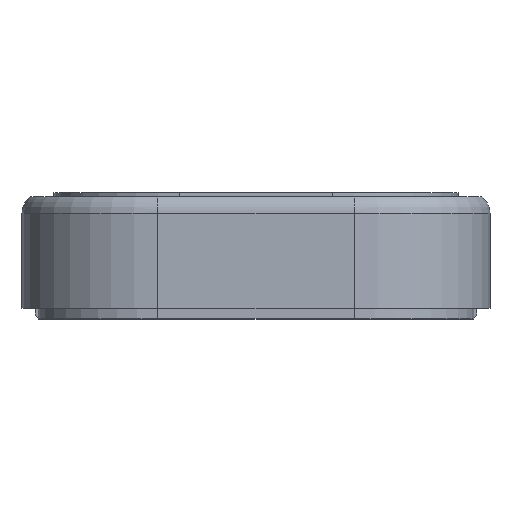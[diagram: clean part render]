
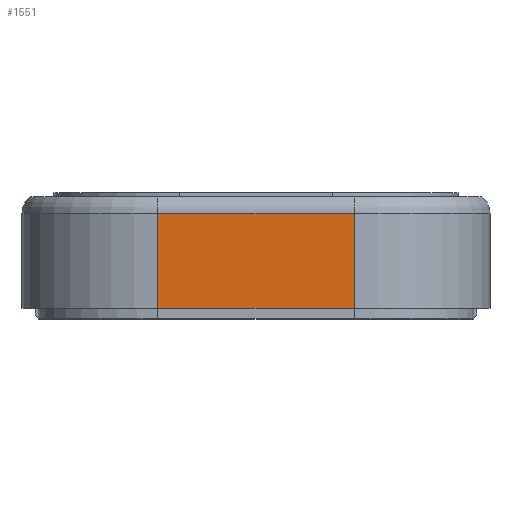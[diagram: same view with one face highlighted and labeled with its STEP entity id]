
A CAD part, front view. The second image highlights one B-rep face of the part: STEP entity #1551.
In plain terms, the highlighted planar face has unit normal (0, -1, 0).
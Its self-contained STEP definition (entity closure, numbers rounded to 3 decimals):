
#44 = CYLINDRICAL_SURFACE('',#45,24.8);
#45 = AXIS2_PLACEMENT_3D('',#46,#47,#48);
#46 = CARTESIAN_POINT('',(-18.,-42.,-13.2));
#47 = DIRECTION('',(0.,0.,1.));
#48 = DIRECTION('',(-1.,-0.,0.));
#72 = PLANE('',#73);
#73 = AXIS2_PLACEMENT_3D('',#74,#75,#76);
#74 = CARTESIAN_POINT('',(-100.,-110.,-9.));
#75 = DIRECTION('',(0.,0.,1.));
#76 = DIRECTION('',(1.,0.,-0.));
#373 = VERTEX_POINT('',#374);
#374 = CARTESIAN_POINT('',(-18.,-66.8,-9.));
#396 = EDGE_CURVE('',#373,#397,#399,.T.);
#397 = VERTEX_POINT('',#398);
#398 = CARTESIAN_POINT('',(-18.,-66.8,8.4));
#399 = SURFACE_CURVE('',#400,(#404,#411),.PCURVE_S1.);
#400 = LINE('',#401,#402);
#401 = CARTESIAN_POINT('',(-18.,-66.8,-13.2));
#402 = VECTOR('',#403,1.);
#403 = DIRECTION('',(0.,0.,1.));
#404 = PCURVE('',#44,#405);
#405 = DEFINITIONAL_REPRESENTATION('',(#406),#410);
#406 = LINE('',#407,#408);
#407 = CARTESIAN_POINT('',(1.571,0.));
#408 = VECTOR('',#409,1.);
#409 = DIRECTION('',(0.,1.));
#410 = ( GEOMETRIC_REPRESENTATION_CONTEXT(2) 
PARAMETRIC_REPRESENTATION_CONTEXT() REPRESENTATION_CONTEXT('2D SPACE',''
  ) );
#411 = PCURVE('',#412,#417);
#412 = PLANE('',#413);
#413 = AXIS2_PLACEMENT_3D('',#414,#415,#416);
#414 = CARTESIAN_POINT('',(-42.8,-66.8,-13.2));
#415 = DIRECTION('',(0.,1.,0.));
#416 = DIRECTION('',(0.,-0.,1.));
#417 = DEFINITIONAL_REPRESENTATION('',(#418),#422);
#418 = LINE('',#419,#420);
#419 = CARTESIAN_POINT('',(0.,24.8));
#420 = VECTOR('',#421,1.);
#421 = DIRECTION('',(1.,0.));
#422 = ( GEOMETRIC_REPRESENTATION_CONTEXT(2) 
PARAMETRIC_REPRESENTATION_CONTEXT() REPRESENTATION_CONTEXT('2D SPACE',''
  ) );
#640 = EDGE_CURVE('',#373,#641,#643,.T.);
#641 = VERTEX_POINT('',#642);
#642 = CARTESIAN_POINT('',(18.,-66.8,-9.));
#643 = SURFACE_CURVE('',#644,(#648,#655),.PCURVE_S1.);
#644 = LINE('',#645,#646);
#645 = CARTESIAN_POINT('',(-71.4,-66.8,-9.));
#646 = VECTOR('',#647,1.);
#647 = DIRECTION('',(1.,0.,0.));
#648 = PCURVE('',#72,#649);
#649 = DEFINITIONAL_REPRESENTATION('',(#650),#654);
#650 = LINE('',#651,#652);
#651 = CARTESIAN_POINT('',(28.6,43.2));
#652 = VECTOR('',#653,1.);
#653 = DIRECTION('',(1.,0.));
#654 = ( GEOMETRIC_REPRESENTATION_CONTEXT(2) 
PARAMETRIC_REPRESENTATION_CONTEXT() REPRESENTATION_CONTEXT('2D SPACE',''
  ) );
#655 = PCURVE('',#412,#656);
#656 = DEFINITIONAL_REPRESENTATION('',(#657),#661);
#657 = LINE('',#658,#659);
#658 = CARTESIAN_POINT('',(4.2,-28.6));
#659 = VECTOR('',#660,1.);
#660 = DIRECTION('',(0.,1.));
#661 = ( GEOMETRIC_REPRESENTATION_CONTEXT(2) 
PARAMETRIC_REPRESENTATION_CONTEXT() REPRESENTATION_CONTEXT('2D SPACE',''
  ) );
#680 = CYLINDRICAL_SURFACE('',#681,24.8);
#681 = AXIS2_PLACEMENT_3D('',#682,#683,#684);
#682 = CARTESIAN_POINT('',(18.,-42.,-13.2));
#683 = DIRECTION('',(0.,0.,1.));
#684 = DIRECTION('',(1.,0.,-0.));
#1517 = CYLINDRICAL_SURFACE('',#1518,3.8);
#1518 = AXIS2_PLACEMENT_3D('',#1519,#1520,#1521);
#1519 = CARTESIAN_POINT('',(18.,-63.,8.4));
#1520 = DIRECTION('',(-1.,-0.,-0.));
#1521 = DIRECTION('',(0.,-1.,0.));
#1551 = ADVANCED_FACE('',(#1552),#412,.F.);
#1552 = FACE_BOUND('',#1553,.F.);
#1553 = EDGE_LOOP('',(#1554,#1555,#1556,#1579));
#1554 = ORIENTED_EDGE('',*,*,#640,.F.);
#1555 = ORIENTED_EDGE('',*,*,#396,.T.);
#1556 = ORIENTED_EDGE('',*,*,#1557,.F.);
#1557 = EDGE_CURVE('',#1558,#397,#1560,.T.);
#1558 = VERTEX_POINT('',#1559);
#1559 = CARTESIAN_POINT('',(18.,-66.8,8.4));
#1560 = SURFACE_CURVE('',#1561,(#1565,#1572),.PCURVE_S1.);
#1561 = LINE('',#1562,#1563);
#1562 = CARTESIAN_POINT('',(18.,-66.8,8.4));
#1563 = VECTOR('',#1564,1.);
#1564 = DIRECTION('',(-1.,-0.,-0.));
#1565 = PCURVE('',#412,#1566);
#1566 = DEFINITIONAL_REPRESENTATION('',(#1567),#1571);
#1567 = LINE('',#1568,#1569);
#1568 = CARTESIAN_POINT('',(21.6,60.8));
#1569 = VECTOR('',#1570,1.);
#1570 = DIRECTION('',(0.,-1.));
#1571 = ( GEOMETRIC_REPRESENTATION_CONTEXT(2) 
PARAMETRIC_REPRESENTATION_CONTEXT() REPRESENTATION_CONTEXT('2D SPACE',''
  ) );
#1572 = PCURVE('',#1517,#1573);
#1573 = DEFINITIONAL_REPRESENTATION('',(#1574),#1578);
#1574 = LINE('',#1575,#1576);
#1575 = CARTESIAN_POINT('',(0.,0.));
#1576 = VECTOR('',#1577,1.);
#1577 = DIRECTION('',(0.,1.));
#1578 = ( GEOMETRIC_REPRESENTATION_CONTEXT(2) 
PARAMETRIC_REPRESENTATION_CONTEXT() REPRESENTATION_CONTEXT('2D SPACE',''
  ) );
#1579 = ORIENTED_EDGE('',*,*,#1580,.F.);
#1580 = EDGE_CURVE('',#641,#1558,#1581,.T.);
#1581 = SURFACE_CURVE('',#1582,(#1586,#1593),.PCURVE_S1.);
#1582 = LINE('',#1583,#1584);
#1583 = CARTESIAN_POINT('',(18.,-66.8,-13.2));
#1584 = VECTOR('',#1585,1.);
#1585 = DIRECTION('',(0.,0.,1.));
#1586 = PCURVE('',#412,#1587);
#1587 = DEFINITIONAL_REPRESENTATION('',(#1588),#1592);
#1588 = LINE('',#1589,#1590);
#1589 = CARTESIAN_POINT('',(0.,60.8));
#1590 = VECTOR('',#1591,1.);
#1591 = DIRECTION('',(1.,0.));
#1592 = ( GEOMETRIC_REPRESENTATION_CONTEXT(2) 
PARAMETRIC_REPRESENTATION_CONTEXT() REPRESENTATION_CONTEXT('2D SPACE',''
  ) );
#1593 = PCURVE('',#680,#1594);
#1594 = DEFINITIONAL_REPRESENTATION('',(#1595),#1599);
#1595 = LINE('',#1596,#1597);
#1596 = CARTESIAN_POINT('',(4.712,0.));
#1597 = VECTOR('',#1598,1.);
#1598 = DIRECTION('',(-0.,1.));
#1599 = ( GEOMETRIC_REPRESENTATION_CONTEXT(2) 
PARAMETRIC_REPRESENTATION_CONTEXT() REPRESENTATION_CONTEXT('2D SPACE',''
  ) );
